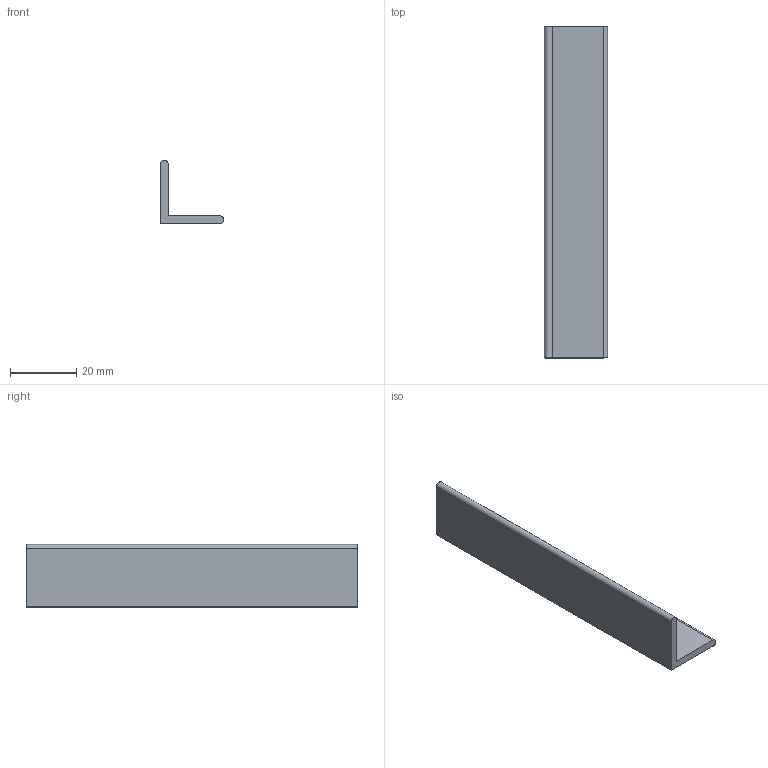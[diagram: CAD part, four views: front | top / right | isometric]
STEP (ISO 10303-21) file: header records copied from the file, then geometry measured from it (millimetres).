
FILE_DESCRIPTION(/* description */ ('Unknown'),/* implementation_level */ '2;1');
FILE_NAME(/* name */ 'NML2090',/* time_stamp */ '2026-09-02T13:02:43+08:00',/* author */ ('Unknown'),/* organization */ ('Unknown'),/* preprocessor_version */ 'ST-DEVELOPER v16.7',/* originating_system */ 'DEX',/* authorisation */ $);
FILE_SCHEMA (('AUTOMOTIVE_DESIGN {1 0 10303 214 3 1 1}'));
Length unit declared in the file: millimetre
Products named in the file (1): NML2090
Bounding box: 19 x 100 x 19 mm (x, y, z)
Volume: 8096.6 mm3; surface area: 7555.9 mm2
Topology: 1 solids, 1 shells, 9 faces, 21 edges, 14 vertices
Faces by surface type: plane 6, cylinder 3
Entity records: 348 total; most frequent: DIRECTION 47, CARTESIAN_POINT 45, ORIENTED_EDGE 42, EDGE_CURVE 21, AXIS2_PLACEMENT_3D 16, LINE 15, VECTOR 15, VERTEX_POINT 14
